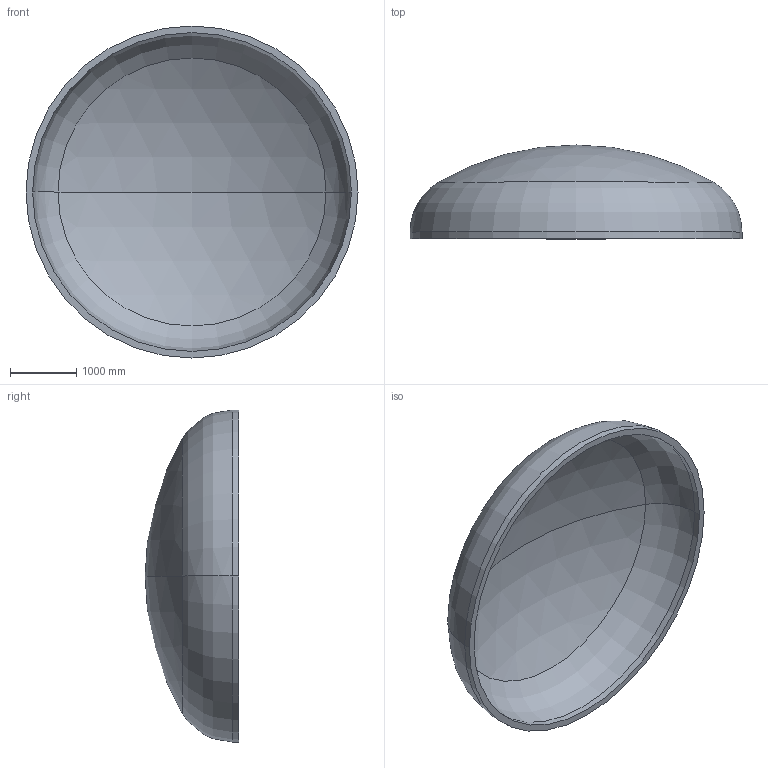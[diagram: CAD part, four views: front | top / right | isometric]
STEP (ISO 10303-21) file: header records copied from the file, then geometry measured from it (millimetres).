
FILE_DESCRIPTION (( 'STEP AP203' ), '1' );
FILE_NAME ('DIN 28013 Korbbogenform_-_Boden DIN 28013 - 5000 x 100 - I - s=100.step', '2016-07-02T00:55:37', ( '' ), ( '' ), 'SwSTEP 2.0', 'SolidWorks 2013', '' );
FILE_SCHEMA (( 'CONFIG_CONTROL_DESIGN' ));
Length unit declared in the file: millimetre
Products named in the file (1): DIN 28013 Korbbogenform_-_Boden DIN 28013 - 5000 x 100 - I - s=100
Bounding box: 5000 x 1411.45 x 5000 mm (x, y, z)
Volume: 2802682803.1 mm3; surface area: 57613960.2 mm2
Topology: 1 solids, 1 shells, 13 faces, 24 edges, 14 vertices
Faces by surface type: torus 4, cylinder 4, sphere 4, plane 1
Entity records: 407 total; most frequent: DIRECTION 72, CARTESIAN_POINT 52, ORIENTED_EDGE 48, AXIS2_PLACEMENT_3D 34, EDGE_CURVE 24, CIRCLE 20, VERTEX_POINT 14, EDGE_LOOP 14
